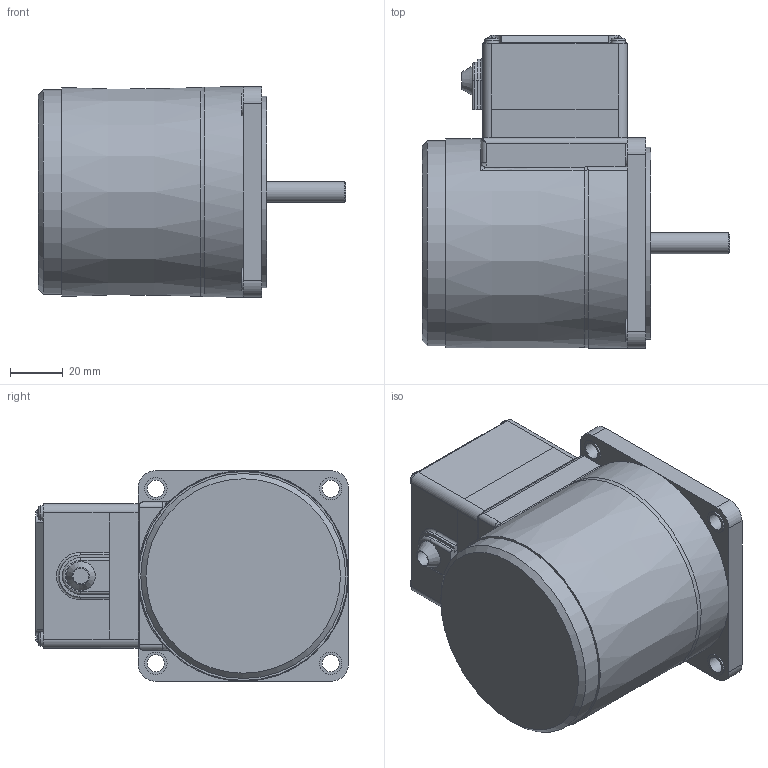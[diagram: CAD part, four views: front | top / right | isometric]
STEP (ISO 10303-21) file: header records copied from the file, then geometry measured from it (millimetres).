
FILE_DESCRIPTION(/* description */ (''),/* implementation_level */ '2;1');
FILE_NAME(/* name */ 'E:\도면작업\2016\0704) 미주향 SG 도면\3D MOTOR\TERMINAL BOX TYPE\INDUCTION TERMINAL BOX\SG8I25S_-T1.stp',/* time_stamp */ '2017-01-23T18:14:47+09:00',/* author */ ('jy-jung'),/* organization */ (''),/* preprocessor_version */ 'ST-DEVELOPER v15.6',/* originating_system */ 'Autodesk Inventor 2015',/* authorisation */ '');
FILE_SCHEMA (('AUTOMOTIVE_DESIGN { 1 0 10303 214 3 1 1 }'));
Length unit declared in the file: millimetre
Products named in the file (1): 부품4
Bounding box: 117 x 119 x 80 mm (x, y, z)
Volume: 556947.3 mm3; surface area: 46887.7 mm2
Topology: 1 solids, 2 shells, 257 faces, 665 edges, 424 vertices
Faces by surface type: plane 116, cylinder 54, cone 44, torus 24, bspline 15, sphere 4
Full cylindrical faces by diameter (mm): 6.5 x4, 8 x2, 8.5 x4, 34 x1, 73 x1, 78 x1
Entity records: 8577 total; most frequent: CARTESIAN_POINT 2342, DIRECTION 1256, ORIENTED_EDGE 1254, EDGE_CURVE 627, AXIS2_PLACEMENT_3D 491, VERTEX_POINT 418, EDGE_LOOP 309, LINE 274
